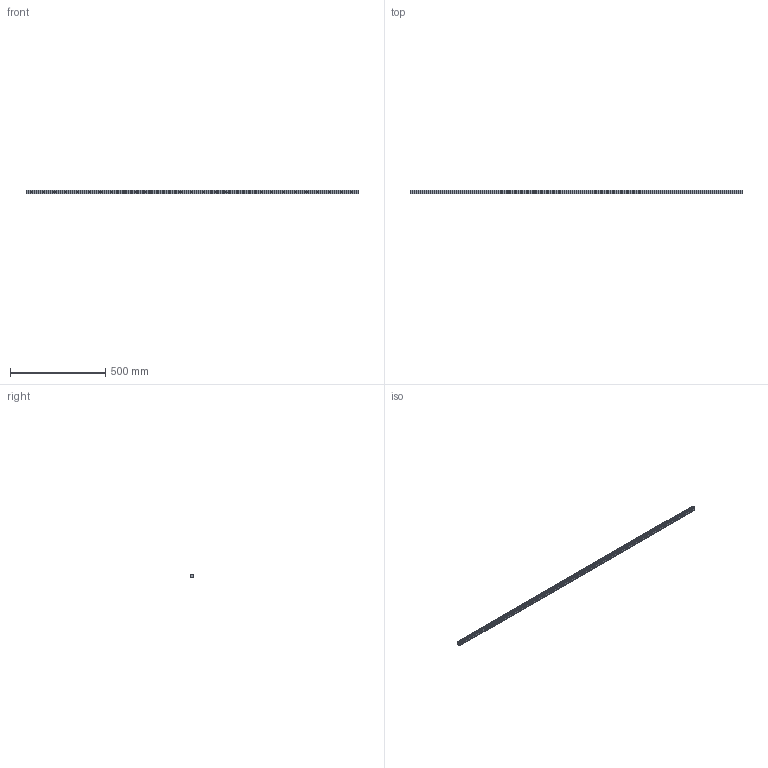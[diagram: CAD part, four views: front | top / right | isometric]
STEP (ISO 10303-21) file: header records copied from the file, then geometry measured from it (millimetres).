
FILE_DESCRIPTION (( 'STEP AP203' ), '1' );
FILE_NAME ('L1018.20R-1740.step', '2023-08-06T09:09:45', ( '' ), ( '' ), 'SwSTEP 2.0', 'SolidWorks 2019', '' );
FILE_SCHEMA (( 'CONFIG_CONTROL_DESIGN' ));
Length unit declared in the file: millimetre
Products named in the file (1): L1018.20R-1740
Bounding box: 1740 x 19.3 x 20 mm (x, y, z)
Volume: 551803.2 mm3; surface area: 147489.8 mm2
Topology: 1 solids, 1 shells, 290 faces, 661 edges, 373 vertices
Faces by surface type: cylinder 119, cone 116, plane 55
Entity records: 7784 total; most frequent: DIRECTION 1481, CARTESIAN_POINT 1267, ORIENTED_EDGE 1206, EDGE_CURVE 603, AXIS2_PLACEMENT_3D 587, VERTEX_POINT 373, EDGE_LOOP 348, VECTOR 307
